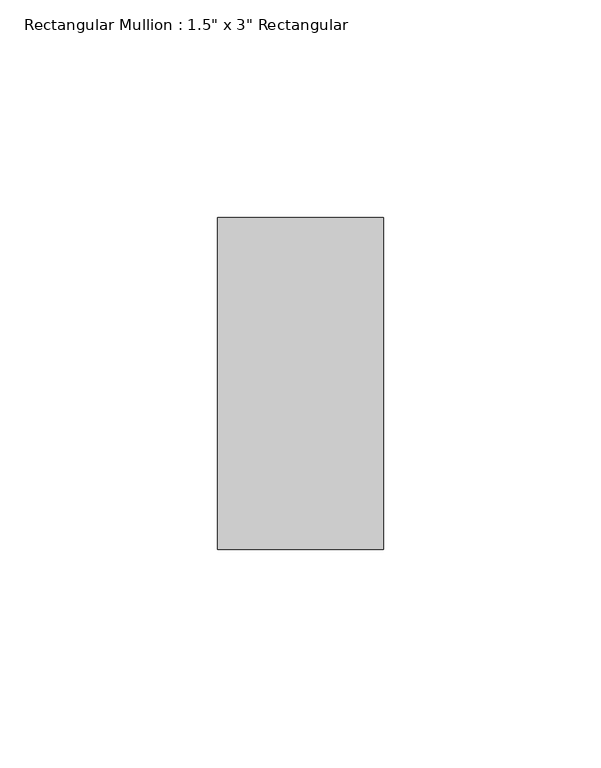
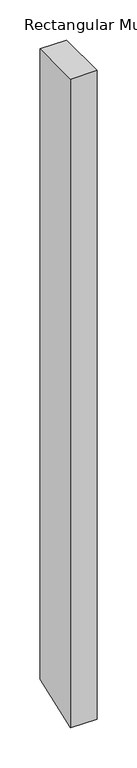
"""IFC4 building model written with IfcOpenShell, lengths in millimetres: member geometry."""

from ifc_helpers import new_model, si_unit, frame, origin, place, context, project, spatial, polyline, outline, extrude, source, transform, mapped, element, save


def member_e1c899d2(model_context):
    return source(origin(), model_context, "Body", "SweptSolid", [
        extrude(outline(polyline([(-38.1, 0.0), (38.1, 0.0), (38.1, -960.3293952), (-38.1, -988.063927), (-38.1, 0.0)])), frame((-38.1, 0.0, 0.0), z_axis=(1.0, 0.0, 0.0), x_axis=(0.0, 1.0, 0.0)), (0.0, 0.0, 1.0), 38.1),
    ])


if __name__ == "__main__":
    model = new_model("IFC4")
    model_context = context("Model", 3, world=origin())
    ifc_project = project(units=[si_unit("LENGTHUNIT", "METRE", prefix="MILLI")], contexts=[model_context])
    site = spatial("IfcSite", under=ifc_project)
    building = spatial("IfcBuilding", under=site)
    placement = place(None, origin())
    member_shape = member_e1c899d2(model_context)
    element("IfcMember", 1, ObjectType="Rectangular Mullion : 1.5\" x 3\" Rectangular", at=placement, inside=building, context=model_context, shape_type="MappedRepresentation", body=[
        mapped(member_shape, transform((0.0, 0.0, 0.0), x_axis=(1.0, 0.0, 0.0), y_axis=(0.0, 1.0, 0.0), z_axis=(0.0, 0.0, 1.0))),
    ])
    save(model, "model.ifc")
